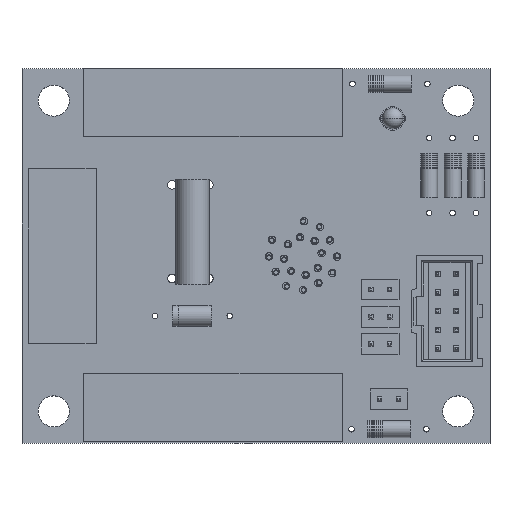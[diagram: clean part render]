
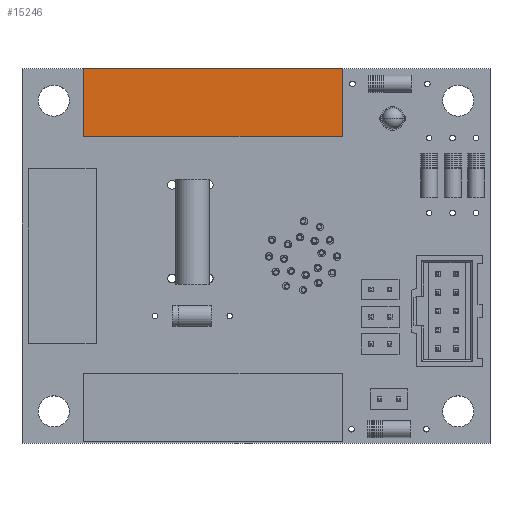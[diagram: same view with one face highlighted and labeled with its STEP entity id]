
A CAD part, top view. The second image highlights one B-rep face of the part: STEP entity #15246.
In plain terms, the highlighted planar face has unit normal (0, 0, 1) as drawn and (0, 1, 0) by its records, which use the part's own axes.
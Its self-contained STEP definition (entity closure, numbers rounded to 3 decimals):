
#3267=VERTEX_POINT('',#22660);
#3268=VERTEX_POINT('',#22662);
#3341=VERTEX_POINT('',#22810);
#3342=VERTEX_POINT('',#22811);
#4454=VECTOR('',#18730,1.);
#4528=VECTOR('',#18805,1.);
#4531=VECTOR('',#18809,1.);
#4532=VECTOR('',#18811,1.);
#5796=LINE('',#22661,#4454);
#5870=LINE('',#22809,#4528);
#5873=LINE('',#22815,#4531);
#5874=LINE('',#22817,#4532);
#7360=EDGE_CURVE('',#3268,#3267,#5796,.T.);
#7434=EDGE_CURVE('',#3341,#3342,#5870,.T.);
#7437=EDGE_CURVE('',#3268,#3342,#5873,.T.);
#7438=EDGE_CURVE('',#3341,#3267,#5874,.T.);
#9795=ORIENTED_EDGE('',*,*,#7438,.F.);
#9796=ORIENTED_EDGE('',*,*,#7434,.T.);
#9797=ORIENTED_EDGE('',*,*,#7437,.F.);
#9798=ORIENTED_EDGE('',*,*,#7360,.T.);
#13079=EDGE_LOOP('',(#9795,#9796,#9797,#9798));
#14261=FACE_BOUND('',#13079,.T.);
#15246=ADVANCED_FACE('',(#14261),#25895,.T.);
#16432=AXIS2_PLACEMENT_3D('',#22816,#18810,$);
#18730=DIRECTION('',(-1.,0.,0.));
#18805=DIRECTION('',(1.,0.,0.));
#18809=DIRECTION('',(0.,0.,1.));
#18810=DIRECTION('',(0.,1.,0.));
#18811=DIRECTION('',(0.,0.,-1.));
#22660=CARTESIAN_POINT('',(-2.3,4.,-7.616));
#22661=CARTESIAN_POINT('',(32.78,4.,-7.616));
#22662=CARTESIAN_POINT('',(32.78,4.,-7.616));
#22809=CARTESIAN_POINT('',(32.78,4.,1.575));
#22810=CARTESIAN_POINT('',(-2.3,4.,1.575));
#22811=CARTESIAN_POINT('',(32.78,4.,1.575));
#22815=CARTESIAN_POINT('',(32.78,4.,0.));
#22816=CARTESIAN_POINT('',(15.24,4.,0.));
#22817=CARTESIAN_POINT('',(-2.3,4.,0.));
#25895=PLANE('',#16432);
